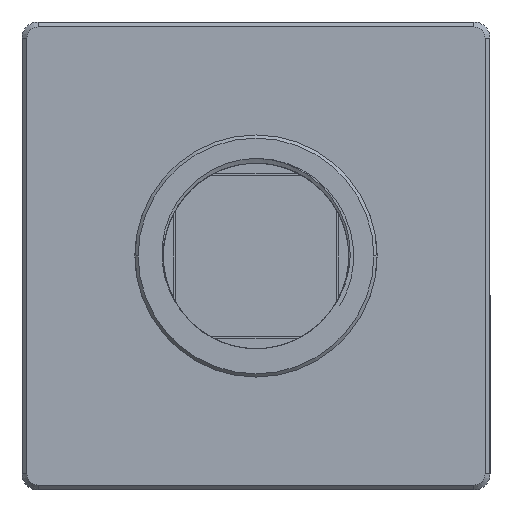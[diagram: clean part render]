
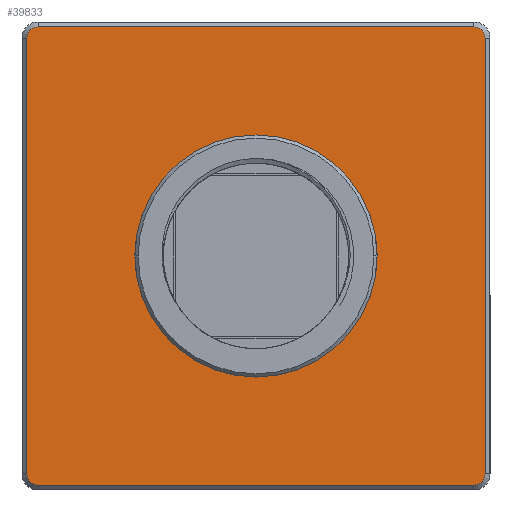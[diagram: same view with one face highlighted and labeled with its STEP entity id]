
A CAD part, front view. The second image highlights one B-rep face of the part: STEP entity #39833.
In plain terms, the highlighted planar face has unit normal (0, -1, 0).
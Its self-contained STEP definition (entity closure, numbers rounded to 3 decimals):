
#526 = ORIENTED_EDGE ( 'NONE', *, *, #50597, .T. ) ;
#869 = DIRECTION ( 'NONE',  ( 1., 0., 0. ) ) ;
#2963 = DIRECTION ( 'NONE',  ( 1., 0., 0. ) ) ;
#3916 = DIRECTION ( 'NONE',  ( 1., 0., 0. ) ) ;
#4024 = VERTEX_POINT ( 'NONE', #23544 ) ;
#4149 = DIRECTION ( 'NONE',  ( 1., 0., 0. ) ) ;
#4645 = CIRCLE ( 'NONE', #48116, 7.5 ) ;
#5593 = CIRCLE ( 'NONE', #22819, 0.7 ) ;
#5601 = EDGE_CURVE ( 'NONE', #20545, #37108, #5593, .T. ) ;
#5773 = CARTESIAN_POINT ( 'NONE',  ( 14.2, -10., -13.5 ) ) ;
#6350 = DIRECTION ( 'NONE',  ( -1., 0., 0. ) ) ;
#6985 = EDGE_CURVE ( 'NONE', #4024, #13013, #49887, .T. ) ;
#7084 = PLANE ( 'NONE',  #42022 ) ;
#9028 = CIRCLE ( 'NONE', #15575, 7.5 ) ;
#9470 = EDGE_LOOP ( 'NONE', ( #25709, #22244, #45130, #25858, #25745, #526, #10126, #43183 ) ) ;
#10126 = ORIENTED_EDGE ( 'NONE', *, *, #14098, .T. ) ;
#10704 = CARTESIAN_POINT ( 'NONE',  ( 13.5, -10., 14.2 ) ) ;
#10777 = EDGE_CURVE ( 'NONE', #12825, #14867, #26452, .T. ) ;
#11189 = DIRECTION ( 'NONE',  ( 0., 1., 0. ) ) ;
#11696 = FACE_BOUND ( 'NONE', #28692, .T. ) ;
#12825 = VERTEX_POINT ( 'NONE', #35596 ) ;
#13013 = VERTEX_POINT ( 'NONE', #5773 ) ;
#13742 = VECTOR ( 'NONE', #23222, 1000. ) ;
#14040 = EDGE_CURVE ( 'NONE', #48495, #14646, #4645, .T. ) ;
#14098 = EDGE_CURVE ( 'NONE', #28146, #30302, #25191, .T. ) ;
#14646 = VERTEX_POINT ( 'NONE', #48276 ) ;
#14668 = CARTESIAN_POINT ( 'NONE',  ( -13.5, -10., 13.5 ) ) ;
#14867 = VERTEX_POINT ( 'NONE', #15107 ) ;
#15046 = VECTOR ( 'NONE', #48581, 1000. ) ;
#15107 = CARTESIAN_POINT ( 'NONE',  ( -14.2, -10., 13.5 ) ) ;
#15575 = AXIS2_PLACEMENT_3D ( 'NONE', #15976, #42703, #4149 ) ;
#15760 = LINE ( 'NONE', #27079, #13742 ) ;
#15976 = CARTESIAN_POINT ( 'NONE',  ( 0., -10., 0. ) ) ;
#17262 = VECTOR ( 'NONE', #39590, 1000. ) ;
#18413 = EDGE_CURVE ( 'NONE', #30302, #12825, #28983, .T. ) ;
#18885 = CARTESIAN_POINT ( 'NONE',  ( 14.5, -10., 14.5 ) ) ;
#20109 = DIRECTION ( 'NONE',  ( 1., 0., 0. ) ) ;
#20545 = VERTEX_POINT ( 'NONE', #43435 ) ;
#21559 = DIRECTION ( 'NONE',  ( 1., 0., 0. ) ) ;
#22244 = ORIENTED_EDGE ( 'NONE', *, *, #33322, .T. ) ;
#22613 = CARTESIAN_POINT ( 'NONE',  ( 13.5, -10., -13.5 ) ) ;
#22819 = AXIS2_PLACEMENT_3D ( 'NONE', #44308, #43800, #869 ) ;
#23203 = DIRECTION ( 'NONE',  ( 0., -1., 0. ) ) ;
#23222 = DIRECTION ( 'NONE',  ( 0., 0., 1. ) ) ;
#23384 = DIRECTION ( 'NONE',  ( 1., 0., 0. ) ) ;
#23544 = CARTESIAN_POINT ( 'NONE',  ( 13.5, -10., -14.2 ) ) ;
#25005 = VECTOR ( 'NONE', #6350, 1000. ) ;
#25191 = CIRCLE ( 'NONE', #25995, 0.7 ) ;
#25709 = ORIENTED_EDGE ( 'NONE', *, *, #10777, .T. ) ;
#25745 = ORIENTED_EDGE ( 'NONE', *, *, #6985, .T. ) ;
#25858 = ORIENTED_EDGE ( 'NONE', *, *, #37340, .T. ) ;
#25995 = AXIS2_PLACEMENT_3D ( 'NONE', #30904, #23203, #20109 ) ;
#26452 = CIRCLE ( 'NONE', #46134, 0.7 ) ;
#26926 = AXIS2_PLACEMENT_3D ( 'NONE', #22613, #50099, #23384 ) ;
#27079 = CARTESIAN_POINT ( 'NONE',  ( 14.2, -10., 14.5 ) ) ;
#28146 = VERTEX_POINT ( 'NONE', #36663 ) ;
#28692 = EDGE_LOOP ( 'NONE', ( #46209, #34331 ) ) ;
#28983 = LINE ( 'NONE', #41524, #25005 ) ;
#30302 = VERTEX_POINT ( 'NONE', #10704 ) ;
#30904 = CARTESIAN_POINT ( 'NONE',  ( 13.5, -10., 13.5 ) ) ;
#31657 = CARTESIAN_POINT ( 'NONE',  ( 0., -10., 0. ) ) ;
#32070 = EDGE_CURVE ( 'NONE', #14646, #48495, #9028, .T. ) ;
#33322 = EDGE_CURVE ( 'NONE', #14867, #20545, #36542, .T. ) ;
#34331 = ORIENTED_EDGE ( 'NONE', *, *, #14040, .F. ) ;
#35596 = CARTESIAN_POINT ( 'NONE',  ( -13.5, -10., 14.2 ) ) ;
#36542 = LINE ( 'NONE', #47821, #15046 ) ;
#36663 = CARTESIAN_POINT ( 'NONE',  ( 14.2, -10., 13.5 ) ) ;
#37108 = VERTEX_POINT ( 'NONE', #39124 ) ;
#37340 = EDGE_CURVE ( 'NONE', #37108, #4024, #47263, .T. ) ;
#38822 = CARTESIAN_POINT ( 'NONE',  ( 14.5, -10., -14.2 ) ) ;
#39124 = CARTESIAN_POINT ( 'NONE',  ( -13.5, -10., -14.2 ) ) ;
#39590 = DIRECTION ( 'NONE',  ( 1., 0., 0. ) ) ;
#39781 = CARTESIAN_POINT ( 'NONE',  ( -7.5, -10., 0. ) ) ;
#39833 = ADVANCED_FACE ( 'NONE', ( #42257, #11696 ), #7084, .F. ) ;
#41524 = CARTESIAN_POINT ( 'NONE',  ( 14.5, -10., 14.2 ) ) ;
#42022 = AXIS2_PLACEMENT_3D ( 'NONE', #18885, #11189, #2963 ) ;
#42257 = FACE_OUTER_BOUND ( 'NONE', #9470, .T. ) ;
#42703 = DIRECTION ( 'NONE',  ( 0., -1., 0. ) ) ;
#43183 = ORIENTED_EDGE ( 'NONE', *, *, #18413, .T. ) ;
#43435 = CARTESIAN_POINT ( 'NONE',  ( -14.2, -10., -13.5 ) ) ;
#43800 = DIRECTION ( 'NONE',  ( 0., -1., 0. ) ) ;
#44308 = CARTESIAN_POINT ( 'NONE',  ( -13.5, -10., -13.5 ) ) ;
#45130 = ORIENTED_EDGE ( 'NONE', *, *, #5601, .T. ) ;
#45975 = DIRECTION ( 'NONE',  ( 0., -1., 0. ) ) ;
#46134 = AXIS2_PLACEMENT_3D ( 'NONE', #14668, #45975, #21559 ) ;
#46209 = ORIENTED_EDGE ( 'NONE', *, *, #32070, .F. ) ;
#47058 = DIRECTION ( 'NONE',  ( 0., -1., 0. ) ) ;
#47263 = LINE ( 'NONE', #38822, #17262 ) ;
#47821 = CARTESIAN_POINT ( 'NONE',  ( -14.2, -10., 14.5 ) ) ;
#48116 = AXIS2_PLACEMENT_3D ( 'NONE', #31657, #47058, #3916 ) ;
#48276 = CARTESIAN_POINT ( 'NONE',  ( 7.5, -10., 0. ) ) ;
#48495 = VERTEX_POINT ( 'NONE', #39781 ) ;
#48581 = DIRECTION ( 'NONE',  ( 0., 0., -1. ) ) ;
#49887 = CIRCLE ( 'NONE', #26926, 0.7 ) ;
#50099 = DIRECTION ( 'NONE',  ( 0., -1., 0. ) ) ;
#50597 = EDGE_CURVE ( 'NONE', #13013, #28146, #15760, .T. ) ;
